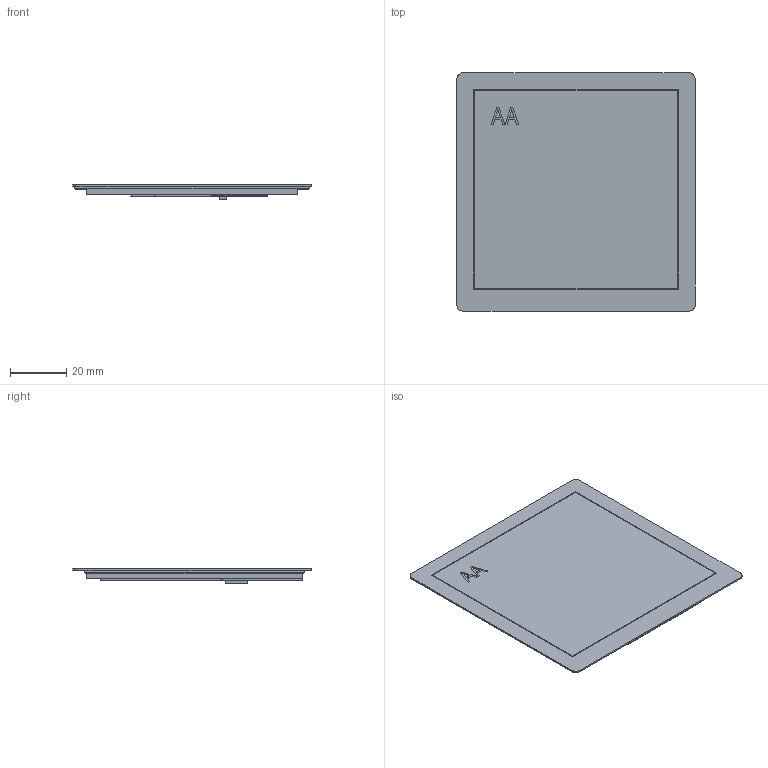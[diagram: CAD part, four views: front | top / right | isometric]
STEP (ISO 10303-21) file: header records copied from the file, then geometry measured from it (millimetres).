
FILE_DESCRIPTION(/* description */ (''),/* implementation_level */ '2;1');
FILE_NAME(/* name */ 'VTc040T64C.stp',/* time_stamp */ '2024-05-31T15:42:37+08:00',/* author */ (''),/* organization */ (''),/* preprocessor_version */ 'ST-DEVELOPER v16',/* originating_system */ 'SIEMENS PLM Software NX 10.0',/* authorisation */ '');
FILE_SCHEMA (('AP203_CONFIGURATION_CONTROLLED_3D_DESIGN_OF_MECHANICAL_PARTS_AND_ASSEMBLIES_MIM_LF { 1 0 10303 403 2 1 2}'));
Length unit declared in the file: millimetre
Products named in the file (1): VTc040T64C
Bounding box: 84.4 x 84.4 x 5.29 mm (x, y, z)
Volume: 22474.1 mm3; surface area: 75200.8 mm2
Topology: 16 solids, 16 shells, 131 faces, 297 edges, 198 vertices
Faces by surface type: plane 108, cylinder 17, extrusion 6
Entity records: 4690 total; most frequent: CARTESIAN_POINT 894, ORIENTED_EDGE 594, DIRECTION 528, EDGE_CURVE 297, VECTOR 208, LINE 202, VERTEX_POINT 198, AXIS2_PLACEMENT_3D 160
